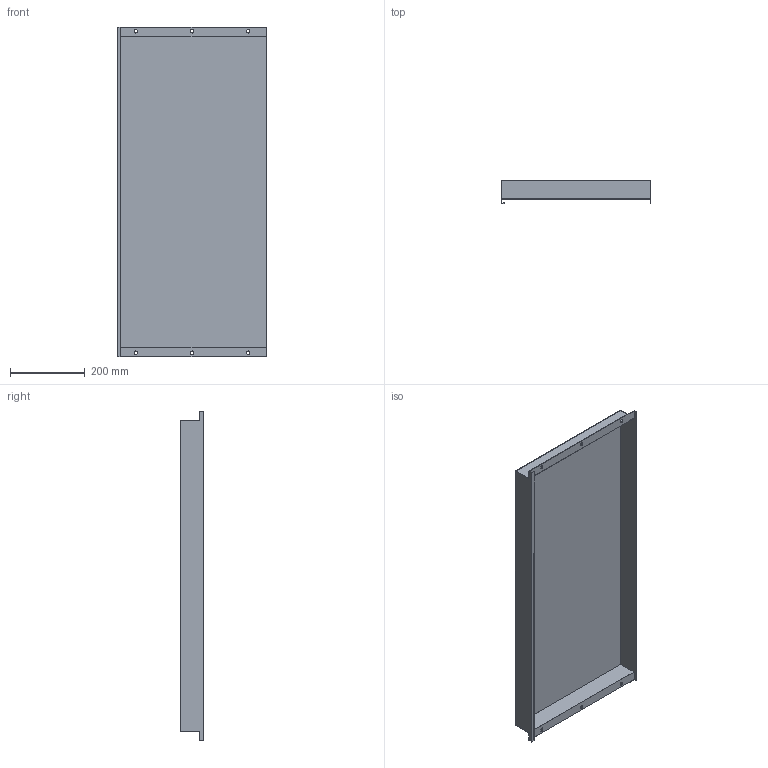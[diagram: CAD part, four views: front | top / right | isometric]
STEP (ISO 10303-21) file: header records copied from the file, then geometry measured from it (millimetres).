
FILE_DESCRIPTION (( 'STEP AP214' ), '1' );
FILE_NAME ('FO-00-PVSU-040-100 Ïëàñòðîí âíóòðåííèé óãëóáëåííûé 400õ1000õ50.STEP', '2025-08-26T11:16:33', ( '' ), ( '' ), 'SwSTEP 2.0', 'SolidWorks 2023', '' );
FILE_SCHEMA (( 'AUTOMOTIVE_DESIGN' ));
Length unit declared in the file: millimetre
Products named in the file (1): FO-00-PVSU-040-100 Пластрон внутренний углубленный 400х1000х50
Bounding box: 398 x 62.5 x 879 mm (x, y, z)
Volume: 693521.4 mm3; surface area: 994628.6 mm2
Topology: 1 solids, 1 shells, 52 faces, 150 edges, 100 vertices
Faces by surface type: plane 34, cylinder 18
Entity records: 1757 total; most frequent: CARTESIAN_POINT 303, ORIENTED_EDGE 300, DIRECTION 292, EDGE_CURVE 150, VECTOR 114, LINE 114, VERTEX_POINT 100, AXIS2_PLACEMENT_3D 89
